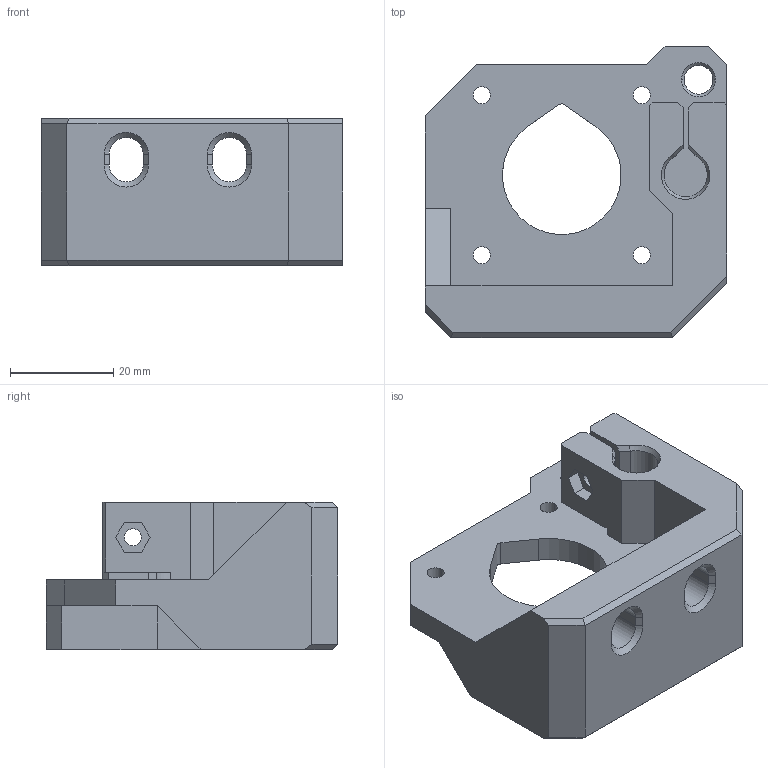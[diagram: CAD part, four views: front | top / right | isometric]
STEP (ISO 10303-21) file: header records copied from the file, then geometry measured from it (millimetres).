
FILE_DESCRIPTION(('CATIA V5 STEP Exchange'),'2;1');
FILE_NAME('D:\_이전 노트북\Cremaker모델링\Cremaker_profile-Metal(5차)-(Final)\Z-motor-block-L.stp','2020-10-23T05:17:39+00:00',('none'),('none'),'CATIA Version 5 Release 20 GA (IN-10)','CATIA V5 STEP AP203','none');
FILE_SCHEMA(('CONFIG_CONTROL_DESIGN'));
Length unit declared in the file: millimetre
Products named in the file (1): Z-motor-block-L
Bounding box: 58.5 x 56.5 x 28.5 mm (x, y, z)
Volume: 34686 mm3; surface area: 13426.6 mm2
Topology: 1 solids, 1 shells, 92 faces, 249 edges, 160 vertices
Faces by surface type: plane 64, cylinder 21, cone 7
Entity records: 2813 total; most frequent: CARTESIAN_POINT 500, ORIENTED_EDGE 498, DIRECTION 395, EDGE_CURVE 249, VECTOR 189, LINE 189, VERTEX_POINT 160, AXIS2_PLACEMENT_3D 129
